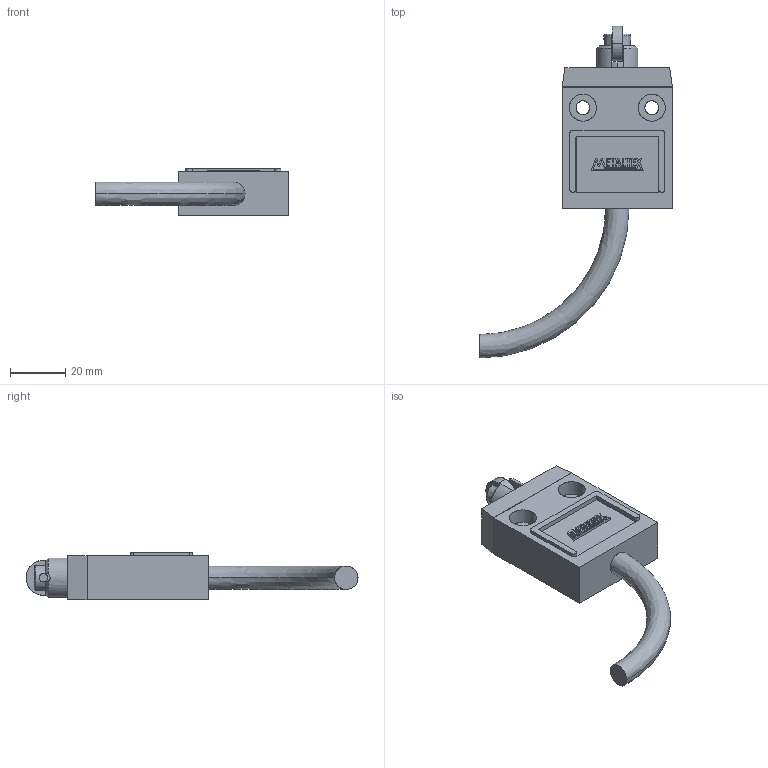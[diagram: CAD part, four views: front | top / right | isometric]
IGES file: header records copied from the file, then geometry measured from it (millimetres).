
Start section: SolidWorks IGES file using analytic representation for surfaces
Global section: file name: D:\X - Arquivos\PROEX\Empresas\P11 - METALTEX\01 - Produtos\IGES\6ª remessa\5ª etapa\TZ-3103.IGS; native system: SolidWorks 2012; preprocessor: SolidWorks 2012; author: Usuario; date: 190327.095342; units: millimetre
Bounding box: 70 x 120.5 x 17.3 mm (x, y, z)
Surface area: 12106.2 mm2 (no closed solid volume)
Topology: 0 solids, 0 shells, 245 faces, 2664 edges, 2664 vertices
Faces by surface type: bspline 197, revolution 48
